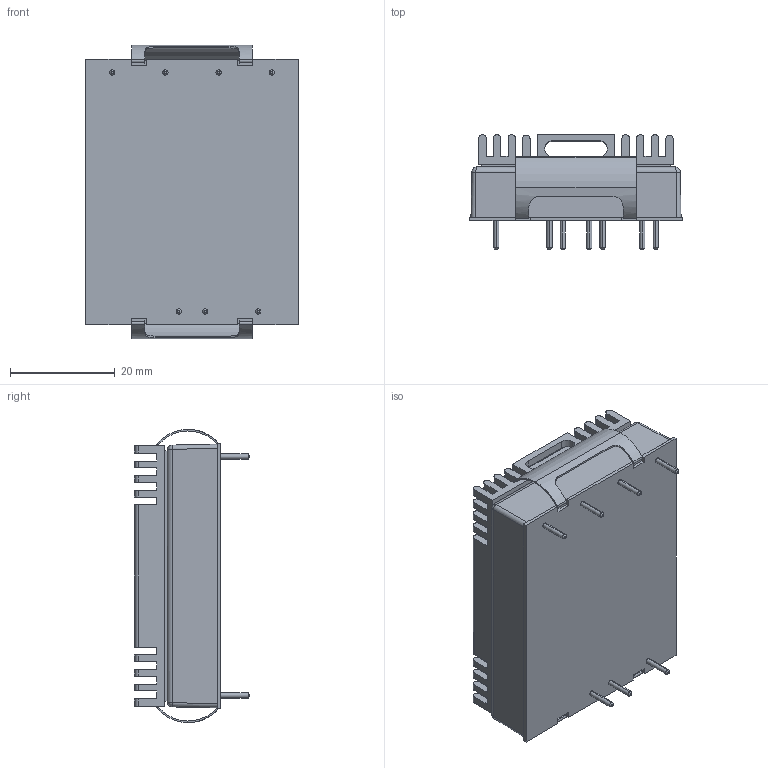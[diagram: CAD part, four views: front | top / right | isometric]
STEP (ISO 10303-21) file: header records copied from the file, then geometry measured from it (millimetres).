
FILE_DESCRIPTION (( 'STEP AP214' ), '1' );
FILE_NAME ('TEN 30WI-HS.STEP', '2018-10-31T10:21:43', ( 'user' ), ( '' ), 'SwSTEP 2.0', 'SolidWorks 2016', '' );
FILE_SCHEMA (( 'AUTOMOTIVE_DESIGN' ));
Length unit declared in the file: millimetre
Products named in the file (5): Clamp; Heatsink; Heatfilm; Converter; TEN 30WI-HS
Assembly tree (5 placements, depth 2):
  TEN 30WI-HS
    Converter
    Heatfilm
    Heatsink
    Clamp  x2
Bounding box: 40.6 x 22.1 x 56.09 mm (x, y, z)
Volume: 27163.5 mm3; surface area: 19645.5 mm2
Topology: 5 solids, 5 shells, 558 faces, 1485 edges, 976 vertices
Faces by surface type: plane 387, cylinder 145, cone 14, bspline 12
Entity records: 22597 total; most frequent: CARTESIAN_POINT 3291, ORIENTED_EDGE 2782, DIRECTION 2695, EDGE_CURVE 1391, VECTOR 1095, LINE 1095, VERTEX_POINT 916, AXIS2_PLACEMENT_3D 800
